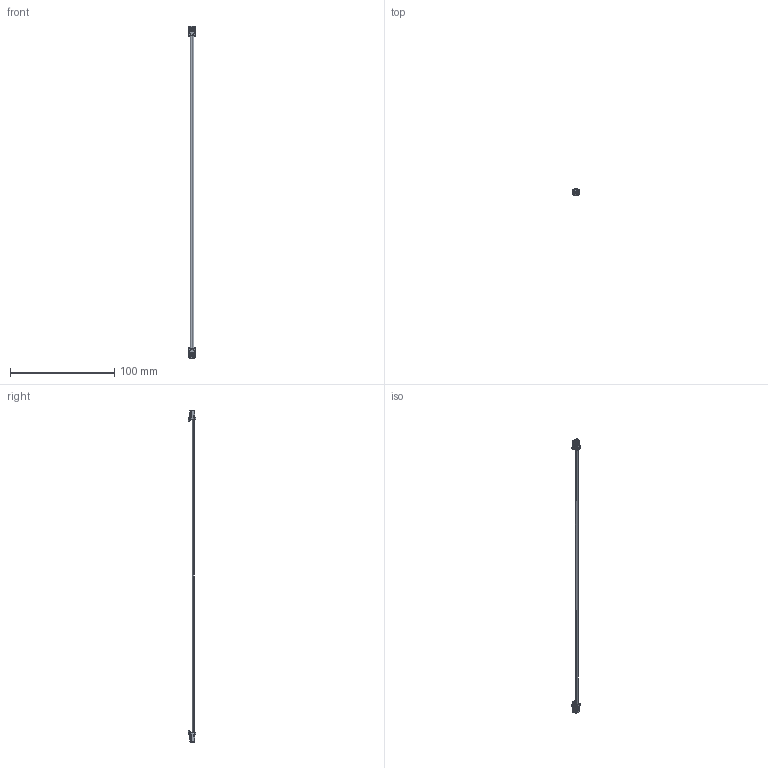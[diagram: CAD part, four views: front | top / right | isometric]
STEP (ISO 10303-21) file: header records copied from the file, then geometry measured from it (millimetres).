
FILE_DESCRIPTION((''),'2;1');
FILE_NAME('151360203','2019-11-22T',('gga'),(''),'PRO/ENGINEER BY PARAMETRIC TECHNOLOGY CORPORATION, 2016010','PRO/ENGINEER BY PARAMETRIC TECHNOLOGY CORPORATION, 2016010','');
FILE_SCHEMA(('CONFIG_CONTROL_DESIGN'));
Length unit declared in the file: millimetre
Products named in the file (1): 151360203
Bounding box: 7.4 x 6.95 x 318.6 mm (x, y, z)
Volume: 1700.1 mm3; surface area: 4304.2 mm2
Topology: 4 solids, 4 shells, 796 faces, 2068 edges, 1216 vertices
Faces by surface type: plane 498, cylinder 214, sphere 60, bspline 12, torus 12
Entity records: 23658 total; most frequent: CARTESIAN_POINT 4555, ORIENTED_EDGE 4016, DIRECTION 3878, EDGE_CURVE 2008, VECTOR 1564, LINE 1564, VERTEX_POINT 1216, AXIS2_PLACEMENT_3D 1157
